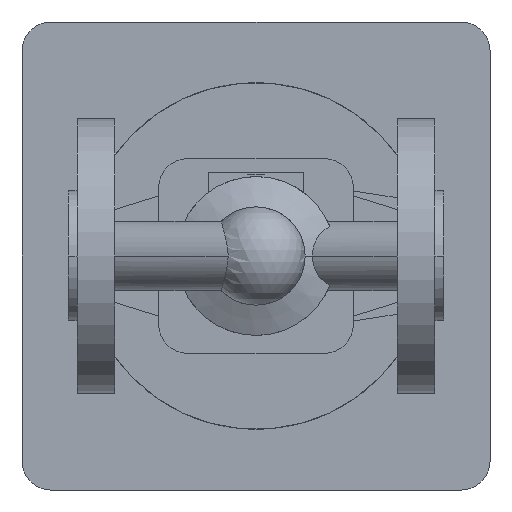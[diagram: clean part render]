
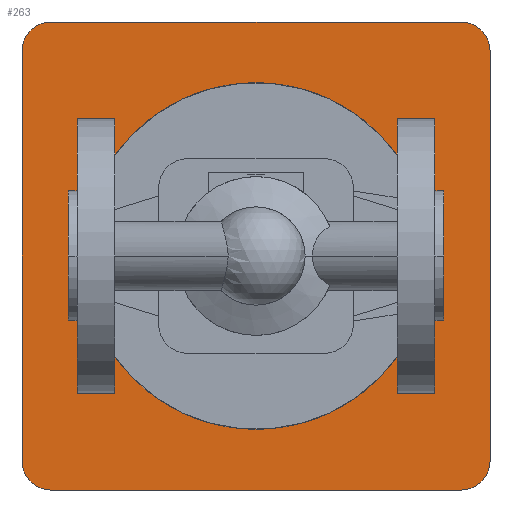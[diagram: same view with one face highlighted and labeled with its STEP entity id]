
A CAD part, front view. The second image highlights one B-rep face of the part: STEP entity #263.
In plain terms, the highlighted planar face has unit normal (0, -1, 0).
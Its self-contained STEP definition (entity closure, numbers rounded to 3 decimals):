
#263 = ADVANCED_FACE( '', ( #603, #604 ), #605, .F. );
#603 = FACE_OUTER_BOUND( '', #969, .T. );
#604 = FACE_BOUND( '', #970, .T. );
#605 = PLANE( '', #971 );
#969 = EDGE_LOOP( '', ( #2116, #2117, #2118, #2119, #2120, #2121, #2122, #2123 ) );
#970 = EDGE_LOOP( '', ( #2124, #2125 ) );
#971 = AXIS2_PLACEMENT_3D( '', #2126, #2127, #2128 );
#2116 = ORIENTED_EDGE( '', *, *, #2645, .F. );
#2117 = ORIENTED_EDGE( '', *, *, #2646, .F. );
#2118 = ORIENTED_EDGE( '', *, *, #2647, .F. );
#2119 = ORIENTED_EDGE( '', *, *, #2648, .F. );
#2120 = ORIENTED_EDGE( '', *, *, #2649, .F. );
#2121 = ORIENTED_EDGE( '', *, *, #2650, .F. );
#2122 = ORIENTED_EDGE( '', *, *, #2651, .F. );
#2123 = ORIENTED_EDGE( '', *, *, #2652, .F. );
#2124 = ORIENTED_EDGE( '', *, *, #2560, .F. );
#2125 = ORIENTED_EDGE( '', *, *, #2653, .F. );
#2126 = CARTESIAN_POINT( '', ( 65., 398., 0. ) );
#2127 = DIRECTION( '', ( 0., 1., 0. ) );
#2128 = DIRECTION( '', ( 0., 0., 1. ) );
#2560 = EDGE_CURVE( '', #3135, #3138, #3139, .T. );
#2645 = EDGE_CURVE( '', #3282, #3283, #3284, .T. );
#2646 = EDGE_CURVE( '', #3285, #3282, #3286, .T. );
#2647 = EDGE_CURVE( '', #3287, #3285, #3288, .T. );
#2648 = EDGE_CURVE( '', #3289, #3287, #3290, .T. );
#2649 = EDGE_CURVE( '', #3291, #3289, #3292, .T. );
#2650 = EDGE_CURVE( '', #3293, #3291, #3294, .T. );
#2651 = EDGE_CURVE( '', #3295, #3293, #3296, .T. );
#2652 = EDGE_CURVE( '', #3283, #3295, #3297, .T. );
#2653 = EDGE_CURVE( '', #3138, #3135, #3298, .T. );
#3135 = VERTEX_POINT( '', #4223 );
#3138 = VERTEX_POINT( '', #4227 );
#3139 = CIRCLE( '', #4228, 40. );
#3282 = VERTEX_POINT( '', #4426 );
#3283 = VERTEX_POINT( '', #4427 );
#3284 = CIRCLE( '', #4428, 10. );
#3285 = VERTEX_POINT( '', #4429 );
#3286 = LINE( '', #4430, #4431 );
#3287 = VERTEX_POINT( '', #4432 );
#3288 = CIRCLE( '', #4433, 10. );
#3289 = VERTEX_POINT( '', #4434 );
#3290 = LINE( '', #4435, #4436 );
#3291 = VERTEX_POINT( '', #4437 );
#3292 = CIRCLE( '', #4438, 10. );
#3293 = VERTEX_POINT( '', #4439 );
#3294 = LINE( '', #4440, #4441 );
#3295 = VERTEX_POINT( '', #4442 );
#3296 = CIRCLE( '', #4443, 10. );
#3297 = LINE( '', #4444, #4445 );
#3298 = CIRCLE( '', #4446, 40. );
#4223 = CARTESIAN_POINT( '', ( 25., 398., 0. ) );
#4227 = CARTESIAN_POINT( '', ( 105., 398., 0. ) );
#4228 = AXIS2_PLACEMENT_3D( '', #5005, #5006, #5007 );
#4426 = CARTESIAN_POINT( '', ( -16., 398., 71. ) );
#4427 = CARTESIAN_POINT( '', ( -6., 398., 81. ) );
#4428 = AXIS2_PLACEMENT_3D( '', #5150, #5151, #5152 );
#4429 = CARTESIAN_POINT( '', ( -16., 398., -71. ) );
#4430 = CARTESIAN_POINT( '', ( -16., 398., -71. ) );
#4431 = VECTOR( '', #5153, 1. );
#4432 = CARTESIAN_POINT( '', ( -6., 398., -81. ) );
#4433 = AXIS2_PLACEMENT_3D( '', #5154, #5155, #5156 );
#4434 = CARTESIAN_POINT( '', ( 136., 398., -81. ) );
#4435 = CARTESIAN_POINT( '', ( 136., 398., -81. ) );
#4436 = VECTOR( '', #5157, 1. );
#4437 = CARTESIAN_POINT( '', ( 146., 398., -71. ) );
#4438 = AXIS2_PLACEMENT_3D( '', #5158, #5159, #5160 );
#4439 = CARTESIAN_POINT( '', ( 146., 398., 71. ) );
#4440 = CARTESIAN_POINT( '', ( 146., 398., 71. ) );
#4441 = VECTOR( '', #5161, 1. );
#4442 = CARTESIAN_POINT( '', ( 136., 398., 81. ) );
#4443 = AXIS2_PLACEMENT_3D( '', #5162, #5163, #5164 );
#4444 = CARTESIAN_POINT( '', ( -6., 398., 81. ) );
#4445 = VECTOR( '', #5165, 1. );
#4446 = AXIS2_PLACEMENT_3D( '', #5166, #5167, #5168 );
#5005 = CARTESIAN_POINT( '', ( 65., 398., 0. ) );
#5006 = DIRECTION( '', ( 0., -1., 0. ) );
#5007 = DIRECTION( '', ( -1., 0., 0. ) );
#5150 = CARTESIAN_POINT( '', ( -6., 398., 71. ) );
#5151 = DIRECTION( '', ( 0., 1., 0. ) );
#5152 = DIRECTION( '', ( -1., 0., 0. ) );
#5153 = DIRECTION( '', ( 0., 0., 1. ) );
#5154 = CARTESIAN_POINT( '', ( -6., 398., -71. ) );
#5155 = DIRECTION( '', ( 0., 1., 0. ) );
#5156 = DIRECTION( '', ( 0., 0., -1. ) );
#5157 = DIRECTION( '', ( -1., 0., 0. ) );
#5158 = CARTESIAN_POINT( '', ( 136., 398., -71. ) );
#5159 = DIRECTION( '', ( 0., 1., 0. ) );
#5160 = DIRECTION( '', ( 1., 0., 0. ) );
#5161 = DIRECTION( '', ( 0., 0., -1. ) );
#5162 = CARTESIAN_POINT( '', ( 136., 398., 71. ) );
#5163 = DIRECTION( '', ( 0., 1., 0. ) );
#5164 = DIRECTION( '', ( 0., 0., 1. ) );
#5165 = DIRECTION( '', ( 1., 0., 0. ) );
#5166 = CARTESIAN_POINT( '', ( 65., 398., 0. ) );
#5167 = DIRECTION( '', ( 0., -1., 0. ) );
#5168 = DIRECTION( '', ( -1., 0., 0. ) );
